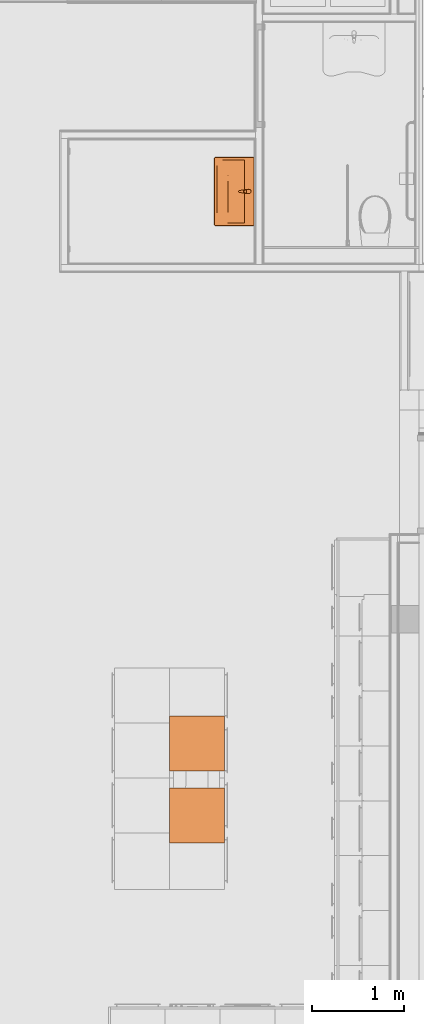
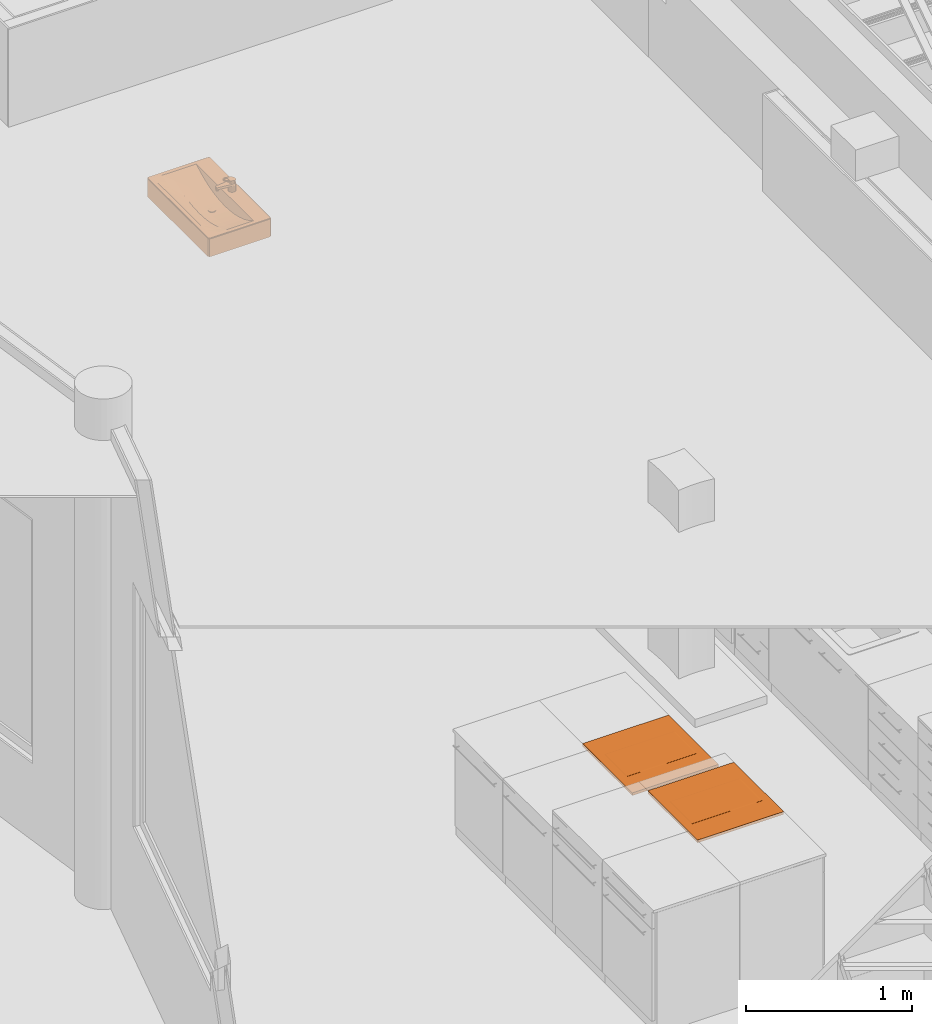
# One storey, part 117 of 167: 3 proxies.
"""IFC2X3 building model written with IfcOpenShell, lengths in millimetres."""

from ifc_helpers import new_model, entity, si_unit, converted_unit, derived_unit, money_unit, direction, frame, origin_with_axes, place, context, subcontext, project, spatial, open_shell, faceted_brep, surface_model, source, transform, mapped, type_object, type_shapes, element, save


model = new_model("IFC2X3")

# Units and contexts
model_context = context("Model", 3, precision=0.01, world=origin_with_axes(), true_north=direction((0.0, 1.0)))
plan_context = context("Plan", 3, precision=0.01, world=origin_with_axes(), true_north=direction((0.0, 1.0)))
body_context = subcontext(model_context, "Body", "Model", "MODEL_VIEW")
ifc_project = project(units=[si_unit("LENGTHUNIT", "METRE", prefix="MILLI"), si_unit("AREAUNIT", "SQUARE_METRE"), si_unit("VOLUMEUNIT", "CUBIC_METRE"), converted_unit("PLANEANGLEUNIT", "DEGREE", entity("IfcPlaneAngleMeasure", 0.0174532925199), si_unit("PLANEANGLEUNIT", "RADIAN"), dimensions=[0, 0, 0, 0, 0, 0, 0]), si_unit("SOLIDANGLEUNIT", "STERADIAN"), money_unit("EUR"), converted_unit("TIMEUNIT", "Year", entity("IfcTimeMeasure", 31556926.0), si_unit("TIMEUNIT", "SECOND"), dimensions=[0, 0, 1, 0, 0, 0, 0]), si_unit("MASSUNIT", "GRAM", prefix="KILO"), si_unit("THERMODYNAMICTEMPERATUREUNIT", "DEGREE_CELSIUS"), si_unit("LUMINOUSINTENSITYUNIT", "LUMEN"), si_unit("ENERGYUNIT", "JOULE", prefix="MEGA"), derived_unit("THERMALCONDUCTANCEUNIT", [(si_unit("POWERUNIT", "WATT"), 1), (si_unit("LENGTHUNIT", "METRE"), -1), (si_unit("THERMODYNAMICTEMPERATUREUNIT", "KELVIN"), -1)]), derived_unit("SPECIFICHEATCAPACITYUNIT", [(si_unit("ENERGYUNIT", "JOULE"), 1), (si_unit("MASSUNIT", "GRAM", prefix="KILO"), -1), (si_unit("THERMODYNAMICTEMPERATUREUNIT", "KELVIN"), -1)]), derived_unit("MASSDENSITYUNIT", [(si_unit("MASSUNIT", "GRAM", prefix="KILO"), 1), (si_unit("VOLUMEUNIT", "CUBIC_METRE"), -1)])], contexts=[model_context, plan_context])

# Site, building, storey
site_placement = place(None, origin_with_axes())
site = spatial("IfcSite", under=ifc_project, at=site_placement, Name="Site", CompositionType="ELEMENT")
building_placement = place(site_placement, origin_with_axes())
building = spatial("IfcBuilding", under=site, at=building_placement, Name="Naam gebouw", CompositionType="ELEMENT")
storey_placement = place(building_placement, origin_with_axes())
storey = spatial("IfcBuildingStorey", under=building, at=storey_placement, Name="Begane grond", CompositionType="ELEMENT", Elevation=0.0)

# Proxies
building_element_proxy_type_1 = type_object("IfcBuildingElementProxyType", Name="Wasbak 24", PredefinedType="NOTDEFINED")
shared_shape_1 = source(origin_with_axes(), body_context, "Body", "SurfaceModel", [
    faceted_brep([(360.0, -440.0, 865.0), (-360.0, -440.0, 865.0), (-367.5, -437.990381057, 865.0), (-372.990381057, -432.5, 865.0), (-375.0, -425.0, 865.0), (-375.0, -15.0, 865.0), (-372.990381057, -7.5, 865.0), (-367.5, -2.00961894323, 865.0), (-360.0, 0.0, 865.0), (360.0, 0.0, 865.0), (367.5, -2.00961894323, 865.0), (372.990381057, -7.5, 865.0), (375.0, -15.0, 865.0), (375.0, -425.0, 865.0), (372.990381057, -432.5, 865.0), (367.5, -437.990381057, 865.0), (-345.0, -410.0, 865.0), (345.0, -410.0, 865.0), (345.0, -110.0, 865.0), (-345.0, -110.0, 865.0), (359.999999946, -440.00000039, 995.0), (-359.999999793, -440.00000039, 995.0), (-367.500000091, -437.990381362, 995.0), (-372.990381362, -432.500000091, 995.0), (-375.00000039, -424.999999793, 995.0), (-375.00000039, -14.9999996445, 995.0), (-372.990381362, -7.50000027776, 995.0), (-367.500000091, -2.00961900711, 995.0), (-359.999999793, 2.02655670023e-08, 995.0), (359.999999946, 2.02655670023e-08, 995.0), (367.500000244, -2.00961900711, 995.0), (372.990381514, -7.50000027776, 995.0), (374.99999961, -14.9999996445, 995.0), (374.99999961, -424.999999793, 995.0), (372.990381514, -432.500000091, 995.0), (367.500000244, -437.990381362, 995.0), (-345.0, -410.0, 999.999999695), (345.0, -410.0, 999.999999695), (345.0, -110.0, 999.999999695), (-345.0, -110.0, 999.999999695), (359.977570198, -439.829629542, 996.294095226), (-359.977570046, -439.829629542, 996.294095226), (-367.411809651, -437.837631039, 996.294095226), (-372.837631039, -432.411809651, 996.294095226), (-374.829629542, -424.977570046, 996.294095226), (-374.829629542, -15.0224293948, 996.294095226), (-372.837631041, -7.58819072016, 996.294095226), (-367.411809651, -2.16236933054, 996.294095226), (-359.977570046, -0.170370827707, 996.294095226), (359.977570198, -0.170370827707, 996.294095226), (367.411809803, -2.16236933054, 996.294095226), (372.837631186, -7.58819071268, 996.294095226), (374.829628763, -15.0224293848, 996.294095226), (374.829628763, -424.977570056, 996.294095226), (372.837631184, -432.411809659, 996.294095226), (367.411809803, -437.837631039, 996.294095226), (-359.34173768, -4.99999712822, 999.999999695), (-364.911811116, -6.49249381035, 999.999999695), (-368.507506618, -10.0881893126, 999.999999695), (-370.000003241, -15.6582618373, 999.999999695), (-370.000003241, -424.34173768, 999.999999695), (-368.507506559, -429.911811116, 999.999999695), (-364.911811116, -433.507506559, 999.999999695), (-359.34173768, -435.000003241, 999.999999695), (359.341737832, -435.000003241, 999.999999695), (364.911811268, -433.507506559, 999.999999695), (368.507506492, -429.911811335, 999.999999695), (370.000002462, -424.341737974, 999.999999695), (370.000002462, -15.6582615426, 999.999999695), (368.50750655, -10.088189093, 999.999999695), (364.911811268, -6.49249381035, 999.999999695), (359.341737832, -4.99999712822, 999.999999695), (359.807199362, -438.535534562, 998.535533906), (-359.807199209, -438.535534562, 998.535533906), (-366.741936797, -436.677377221, 998.535533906), (-371.677377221, -431.741936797, 998.535533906), (-373.535534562, -424.807199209, 998.535533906), (-373.535534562, -15.1928002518, 998.535533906), (-371.677377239, -8.2580635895, 998.535533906), (-366.741936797, -3.32262314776, 998.535533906), (-359.807199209, -1.46446580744, 998.535533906), (359.807199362, -1.46446580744, 998.535533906), (366.741936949, -3.32262314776, 998.535533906), (371.677377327, -8.2580635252, 998.535533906), (373.535533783, -15.1928001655, 998.535533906), (373.535533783, -424.807199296, 998.535533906), (371.677377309, -431.741936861, 998.535533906), (366.741936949, -436.677377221, 998.535533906), (-365.581682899, -5.33224184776, 999.829629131), (-359.512108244, -3.70590421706, 999.829629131), (-369.667758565, -9.41831751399, 999.829629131), (-371.294096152, -15.4878912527, 999.829629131), (-371.294096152, -424.512108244, 999.829629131), (-369.667758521, -430.581682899, 999.829629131), (-365.581682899, -434.667758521, 999.829629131), (-359.512108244, -436.294096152, 999.829629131), (359.512108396, -436.294096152, 999.829629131), (365.581683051, -434.667758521, 999.829629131), (369.667758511, -430.581683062, 999.829629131), (371.294095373, -424.512108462, 999.829629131), (371.294095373, -15.4878910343, 999.829629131), (369.667758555, -9.41831735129, 999.829629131), (365.581683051, -5.33224184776, 999.829629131), (359.512108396, -3.70590421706, 999.829629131)], [[[0, 1, 2, 3, 4, 5, 6, 7, 8, 9, 10, 11, 12, 13, 14, 15], [16, 17, 18, 19]], [[0, 20, 21, 1]], [[1, 21, 22, 2]], [[2, 22, 23, 3]], [[3, 23, 24, 4]], [[4, 24, 25, 5]], [[5, 25, 26, 6]], [[6, 26, 27, 7]], [[7, 27, 28, 8]], [[8, 28, 29, 9]], [[9, 29, 30, 10]], [[10, 30, 31, 11]], [[11, 31, 32, 12]], [[12, 32, 33, 13]], [[13, 33, 34, 14]], [[14, 34, 35, 15]], [[15, 35, 20, 0]], [[36, 37, 17, 16]], [[37, 38, 18, 17]], [[38, 39, 19, 18]], [[39, 36, 16, 19]], [[20, 40, 41, 21]], [[21, 41, 42, 22]], [[22, 42, 43, 23]], [[23, 43, 44, 24]], [[24, 44, 45, 25]], [[25, 45, 46, 26]], [[26, 46, 47, 27]], [[27, 47, 48, 28]], [[28, 48, 49, 29]], [[29, 49, 50, 30]], [[30, 50, 51, 31]], [[31, 51, 52, 32]], [[32, 52, 53, 33]], [[33, 53, 54, 34]], [[34, 54, 55, 35]], [[35, 55, 40, 20]], [[56, 57, 58, 59, 60, 61, 62, 63, 64, 65, 66, 67, 68, 69, 70, 71], [36, 39, 38, 37]], [[40, 72, 73, 41]], [[41, 73, 74, 42]], [[42, 74, 75, 43]], [[43, 75, 76, 44]], [[44, 76, 77, 45]], [[45, 77, 78, 46]], [[46, 78, 79, 47]], [[47, 79, 80, 48]], [[48, 80, 81, 49]], [[49, 81, 82, 50]], [[50, 82, 83, 51]], [[51, 83, 84, 52]], [[52, 84, 85, 53]], [[53, 85, 86, 54]], [[54, 86, 87, 55]], [[55, 87, 72, 40]], [[88, 57, 56, 89]], [[90, 58, 57, 88]], [[91, 59, 58, 90]], [[92, 60, 59, 91]], [[93, 61, 60, 92]], [[94, 62, 61, 93]], [[95, 63, 62, 94]], [[96, 64, 63, 95]], [[97, 65, 64, 96]], [[98, 66, 65, 97]], [[99, 67, 66, 98]], [[100, 68, 67, 99]], [[101, 69, 68, 100]], [[102, 70, 69, 101]], [[103, 71, 70, 102]], [[89, 56, 71, 103]], [[72, 96, 95, 73]], [[73, 95, 94, 74]], [[74, 94, 93, 75]], [[75, 93, 92, 76]], [[76, 92, 91, 77]], [[77, 91, 90, 78]], [[78, 90, 88, 79]], [[79, 88, 89, 80]], [[80, 89, 103, 81]], [[81, 103, 102, 82]], [[82, 102, 101, 83]], [[83, 101, 100, 84]], [[84, 100, 99, 85]], [[85, 99, 98, 86]], [[86, 98, 97, 87]], [[87, 97, 96, 72]]]),
    faceted_brep([(-345.0, -410.0, 865.0), (-345.0, -110.0, 865.0), (345.0, -110.0, 865.0), (345.0, -410.0, 865.0), (12.5, -221.641635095, 865.0), (21.6506350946, -212.491, 865.0), (25.0, -199.991, 865.0), (21.6506350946, -187.491, 865.0), (12.5, -178.340364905, 865.0), (0.0, -174.991, 865.0), (-12.5, -178.340364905, 865.0), (-21.6506350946, -187.491, 865.0), (-25.0, -199.991, 865.0), (-21.6506350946, -212.491, 865.0), (-12.5, -221.641635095, 865.0), (0.0, -224.991, 865.0), (-345.0, -290.0, 1000.0), (-345.0, -230.0, 1000.0), (-345.0, -170.0, 1000.0), (-345.0, -110.0, 1000.0), (-345.0, -410.0, 1000.0), (-345.0, -350.0, 1000.0), (172.5, -110.0, 923.490046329), (230.0, -110.0, 942.392666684), (287.5, -110.0, 967.604424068), (345.0, -110.0, 1000.0), (-287.5, -110.0, 967.604424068), (-230.0, -110.0, 942.392666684), (-172.5, -110.0, 923.490046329), (-115.0, -110.0, 910.33269883), (-57.5, -110.0, 902.567597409), (0.0, -110.0, 900.0), (57.5, -110.0, 902.567597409), (115.0, -110.0, 910.33269883), (345.0, -230.0, 1000.0), (345.0, -290.0, 1000.0), (345.0, -350.0, 1000.0), (345.0, -410.0, 1000.0), (345.0, -170.0, 1000.0), (-172.5, -410.0, 1000.0), (-230.0, -410.0, 1000.0), (-287.5, -410.0, 1000.0), (287.5, -410.0, 1000.0), (230.0, -410.0, 1000.0), (172.5, -410.0, 1000.0), (115.0, -410.0, 1000.0), (57.5, -410.0, 1000.0), (0.0, -410.0, 1000.0), (-57.5, -410.0, 1000.0), (-115.0, -410.0, 1000.0), (12.5, -221.641635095, 900.55817335), (21.6506350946, -212.491, 900.966784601), (25.0, -199.991, 901.116346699), (21.6506350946, -187.491, 900.966784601), (12.5, -178.340364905, 900.55817335), (0.0, -174.991, 900.0), (-12.5, -178.340364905, 900.55817335), (-21.6506350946, -187.491, 900.966784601), (-25.0, -199.991, 901.116346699), (-21.6506350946, -212.491, 900.966784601), (-12.5, -221.641635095, 900.55817335), (0.0, -224.991, 900.0), (-287.5, -230.0, 967.604424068), (-287.5, -170.0, 967.604424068), (-287.5, -350.0, 985.458787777), (-287.5, -290.0, 971.338812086), (230.0, -170.0, 942.392666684), (172.5, -170.0, 923.490046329), (287.5, -170.0, 967.604424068), (-230.0, -170.0, 942.392666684), (-172.5, -170.0, 923.490046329), (-115.0, -170.0, 910.33269883), (-57.5, -170.0, 902.567597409), (0.0, -170.0, 900.0), (57.5, -170.0, 902.567597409), (115.0, -170.0, 910.33269883), (287.5, -290.0, 971.338812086), (287.5, -350.0, 985.458787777), (287.5, -230.0, 967.604424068), (-172.5, -350.0, 964.603096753), (-230.0, -350.0, 973.685305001), (230.0, -350.0, 973.685305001), (172.5, -350.0, 964.603096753), (115.0, -350.0, 958.155102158), (57.5, -350.0, 954.301788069), (0.0, -350.0, 953.019907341), (-57.5, -350.0, 954.301788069), (-115.0, -350.0, 958.155102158), (0.0, -230.0, 900.0), (57.5, -230.0, 902.567597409), (-57.5, -230.0, 902.567597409), (-230.0, -230.0, 942.392666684), (230.0, -230.0, 942.392666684), (172.5, -230.0, 923.490046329), (-172.5, -230.0, 923.490046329), (-115.0, -230.0, 910.33269883), (115.0, -230.0, 910.33269883), (0.0, -290.0, 910.491826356), (-57.5, -290.0, 912.825196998), (-230.0, -290.0, 948.798274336), (172.5, -290.0, 931.776850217), (230.0, -290.0, 948.798274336), (-172.5, -290.0, 931.776850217), (-115.0, -290.0, 919.871958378), (57.5, -290.0, 912.825196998), (115.0, -290.0, 919.871958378)], [[[0, 1, 2, 3], [4, 5, 6, 7, 8, 9, 10, 11, 12, 13, 14, 15]], [[16, 17, 18, 19, 1, 0, 20, 21]], [[22, 23, 24, 25, 2, 1, 19, 26, 27, 28, 29, 30, 31, 32, 33]], [[34, 35, 36, 37, 3, 2, 25, 38]], [[39, 40, 41, 20, 0, 3, 37, 42, 43, 44, 45, 46, 47, 48, 49]], [[50, 51, 5, 4]], [[51, 52, 6, 5]], [[52, 53, 7, 6]], [[53, 54, 8, 7]], [[54, 55, 9, 8]], [[55, 56, 10, 9]], [[56, 57, 11, 10]], [[57, 58, 12, 11]], [[58, 59, 13, 12]], [[59, 60, 14, 13]], [[60, 61, 15, 14]], [[61, 50, 4, 15]], [[16, 62, 17]], [[62, 63, 18, 17]], [[63, 26, 19, 18]], [[20, 64, 21]], [[21, 65, 16]], [[66, 23, 22, 67]], [[68, 24, 23, 66]], [[38, 25, 24, 68]], [[69, 27, 26, 63]], [[70, 28, 27, 69]], [[71, 29, 28, 70]], [[72, 30, 29, 71]], [[73, 31, 30, 72]], [[74, 32, 31, 73]], [[75, 33, 32, 74]], [[67, 22, 33, 75]], [[76, 35, 34]], [[77, 36, 35]], [[42, 37, 36]], [[34, 38, 68, 78]], [[40, 39, 79]], [[41, 40, 80]], [[20, 41, 64]], [[43, 42, 77]], [[44, 43, 81]], [[45, 44, 82]], [[46, 45, 83]], [[47, 46, 84]], [[48, 47, 85]], [[49, 48, 86]], [[39, 49, 87]], [[54, 53, 52, 51, 50, 61, 88, 89, 74, 73, 55]], [[56, 55, 73, 72, 90, 88, 61, 60, 59, 58, 57]], [[16, 65, 62]], [[91, 69, 63, 62]], [[21, 64, 65]], [[92, 66, 67, 93]], [[78, 68, 66, 92]], [[94, 70, 69, 91]], [[95, 71, 70, 94]], [[90, 72, 71, 95]], [[96, 75, 74, 89]], [[93, 67, 75, 96]], [[77, 35, 76]], [[76, 34, 78]], [[42, 36, 77]], [[39, 87, 79]], [[40, 79, 80]], [[41, 80, 64]], [[43, 77, 81]], [[44, 81, 82]], [[45, 82, 83]], [[46, 83, 84]], [[47, 84, 85]], [[48, 85, 86]], [[49, 86, 87]], [[97, 89, 88]], [[98, 88, 90]], [[65, 91, 62]], [[64, 99, 65]], [[100, 92, 93]], [[101, 78, 92]], [[99, 94, 91]], [[102, 95, 94]], [[103, 90, 95]], [[104, 96, 89]], [[105, 93, 96]], [[81, 77, 76]], [[101, 76, 78]], [[79, 87, 103]], [[80, 79, 102]], [[64, 80, 99]], [[82, 81, 101]], [[83, 82, 100]], [[84, 83, 105]], [[85, 84, 104]], [[86, 85, 97]], [[87, 86, 98]], [[97, 104, 89]], [[98, 97, 88]], [[103, 98, 90]], [[65, 99, 91]], [[100, 101, 92]], [[105, 100, 93]], [[99, 102, 94]], [[102, 103, 95]], [[104, 105, 96]], [[81, 76, 101]], [[87, 98, 103]], [[79, 103, 102]], [[80, 102, 99]], [[82, 101, 100]], [[83, 100, 105]], [[84, 105, 104]], [[85, 104, 97]], [[86, 97, 98]]]),
    faceted_brep([(21.6506350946, -212.491, 900.0), (12.5, -221.641635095, 900.0), (0.0, -224.991, 900.0), (-12.5, -221.641635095, 900.0), (-21.6506350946, -212.491, 900.0), (-25.0, -199.991, 900.0), (-21.6506350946, -187.491, 900.0), (-12.5, -178.340364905, 900.0), (0.0, -174.991, 900.0), (12.5, -178.340364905, 900.0), (21.6506350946, -187.491, 900.0), (25.0, -199.991, 900.0), (21.6506350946, -212.491, 905.0), (12.5, -221.641635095, 905.0), (0.0, -224.991, 905.0), (-12.5, -221.641635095, 905.0), (-21.6506350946, -212.491, 905.0), (-25.0, -199.991, 905.0), (-21.6506350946, -187.491, 905.0), (-12.5, -178.340364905, 905.0), (0.0, -174.991, 905.0), (12.5, -178.340364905, 905.0), (21.6506350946, -187.491, 905.0), (25.0, -199.991, 905.0)], [[[0, 1, 2, 3, 4, 5, 6, 7, 8, 9, 10, 11]], [[1, 0, 12, 13]], [[2, 1, 13, 14]], [[3, 2, 14, 15]], [[4, 3, 15, 16]], [[5, 4, 16, 17]], [[6, 5, 17, 18]], [[7, 6, 18, 19]], [[8, 7, 19, 20]], [[9, 8, 20, 21]], [[10, 9, 21, 22]], [[11, 10, 22, 23]], [[0, 11, 23, 12]], [[12, 23, 22, 21, 20, 19, 18, 17, 16, 15, 14, 13]]]),
    surface_model("IfcShellBasedSurfaceModel", [(0.0, -199.991, 907.0), (0.0, -187.369094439, 906.49757372), (-6.31095278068, -189.06010914, 906.49757372), (6.31095278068, -189.06010914, 906.49757372), (0.0, -174.991, 905.0), (-12.5, -178.340364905, 905.0), (-10.9308908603, -193.680047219, 906.49757372), (10.9308908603, -193.680047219, 906.49757372), (12.5, -178.340364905, 905.0), (-21.6506350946, -187.491, 905.0), (-12.6219055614, -199.991, 906.49757372), (12.6219055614, -199.991, 906.49757372), (21.6506350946, -187.491, 905.0), (-25.0, -199.991, 905.0), (-10.9308908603, -206.301952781, 906.49757372), (10.9308908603, -206.301952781, 906.49757372), (25.0, -199.991, 905.0), (-21.6506350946, -212.491, 905.0), (-6.31095278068, -210.92189086, 906.49757372), (6.31095278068, -210.92189086, 906.49757372), (21.6506350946, -212.491, 905.0), (-12.5, -221.641635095, 905.0), (0.0, -212.612905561, 906.49757372), (12.5, -221.641635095, 905.0), (0.0, -224.991, 905.0)], [open_shell([[[0, 1, 2]], [[0, 3, 1]], [[2, 1, 4, 5]], [[0, 2, 6]], [[0, 7, 3]], [[1, 3, 8, 4]], [[6, 2, 5, 9]], [[0, 6, 10]], [[0, 11, 7]], [[3, 7, 12, 8]], [[10, 6, 9, 13]], [[0, 10, 14]], [[0, 15, 11]], [[7, 11, 16, 12]], [[14, 10, 13, 17]], [[0, 14, 18]], [[0, 19, 15]], [[11, 15, 20, 16]], [[18, 14, 17, 21]], [[0, 18, 22]], [[0, 22, 19]], [[15, 19, 23, 20]], [[22, 18, 21, 24]], [[19, 22, 24, 23]]])]),
    faceted_brep([(12.5, -38.3493649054, 1000.0), (0.0, -35.0, 1000.0), (0.0, -38.7980769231, 1075.96153846), (10.5873227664, -41.6622190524, 1076.50708934), (21.6506350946, -47.5, 1000.0), (25.0, -60.0, 1000.0), (21.6506350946, -72.5, 1000.0), (12.5, -81.6506350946, 1000.0), (0.0, -85.0, 1000.0), (-12.5, -81.6506350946, 1000.0), (-21.6506350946, -72.5, 1000.0), (-25.0, -60.0, 1000.0), (-21.6506350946, -47.5, 1000.0), (-12.5, -38.3493649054, 1000.0), (-10.5873227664, -41.6622190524, 1076.50708934), (-18.2735503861, -49.4497607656, 1077.99043062), (-21.0, -60.0, 1080.0), (-18.1003413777, -70.4502369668, 1081.99052133), (-10.4141059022, -78.037760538, 1083.43576391), (0.0, -80.8018867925, 1083.96226415), (10.4141059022, -78.037760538, 1083.43576391), (18.1003413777, -70.4502369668, 1081.99052133), (21.0, -60.0, 1080.0), (18.2735503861, -49.4497607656, 1077.99043062)], [[[0, 1, 2, 3]], [[0, 4, 5, 6, 7, 8, 9, 10, 11, 12, 13, 1]], [[1, 13, 14, 2]], [[3, 2, 14, 15, 16, 17, 18, 19, 20, 21, 22, 23]], [[4, 0, 3, 23]], [[5, 4, 23, 22]], [[6, 5, 22, 21]], [[7, 6, 21, 20]], [[8, 7, 20, 19]], [[9, 8, 19, 18]], [[10, 9, 18, 17]], [[11, 10, 17, 16]], [[12, 11, 16, 15]], [[13, 12, 15, 14]]]),
    faceted_brep([(9.0, -163.0, 1035.0), (7.79422863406, -158.5, 1035.0), (7.79422863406, -158.5, 1045.0), (9.0, -163.0, 1045.0), (7.79422863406, -167.5, 1035.0), (4.5, -170.794228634, 1035.0), (0.0, -172.0, 1035.0), (-4.5, -170.794228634, 1035.0), (-7.79422863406, -167.5, 1035.0), (-9.0, -163.0, 1035.0), (-7.79422863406, -158.5, 1035.0), (-4.5, -155.205771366, 1035.0), (0.0, -154.0, 1035.0), (4.5, -155.205771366, 1035.0), (4.5, -155.205771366, 1045.0), (0.0, -154.0, 1045.0), (-4.5, -155.205771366, 1045.0), (-7.79422863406, -158.5, 1045.0), (-9.0, -163.0, 1045.0), (-7.79422863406, -167.5, 1045.0), (-4.5, -170.794228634, 1045.0), (0.0, -172.0, 1045.0), (4.5, -170.794228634, 1045.0), (7.79422863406, -167.5, 1045.0)], [[[0, 1, 2, 3]], [[0, 4, 5, 6, 7, 8, 9, 10, 11, 12, 13, 1]], [[1, 13, 14, 2]], [[3, 2, 14, 15, 16, 17, 18, 19, 20, 21, 22, 23]], [[4, 0, 3, 23]], [[5, 4, 23, 22]], [[6, 5, 22, 21]], [[7, 6, 21, 20]], [[8, 7, 20, 19]], [[9, 8, 19, 18]], [[10, 9, 18, 17]], [[11, 10, 17, 16]], [[12, 11, 16, 15]], [[13, 12, 15, 14]]]),
    faceted_brep([(-12.8717176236, -39.7436961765, 1060.0), (-21.727805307, -49.8067946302, 1060.0), (-23.8054, -63.0499, 1060.0), (-10.911990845, -164.388371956, 1060.0), (-9.02887546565, -169.283194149, 1060.0), (-5.09332449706, -172.749726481, 1060.0), (3.62679860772e-05, -173.99996004, 1060.0), (5.09338878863, -172.749692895, 1060.0), (9.02891689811, -169.283134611, 1060.0), (10.912, -164.3883, 1060.0), (23.8053997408, -63.0499020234, 1060.0), (21.7278061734, -49.806796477, 1060.0), (12.8717193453, -39.7436972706, 1060.0), (1.01998896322e-06, -36.000021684, 1060.0), (11.0, -40.9474411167, 1060.0), (19.0525588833, -49.0, 1060.0), (22.0, -60.0, 1060.0), (19.0525588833, -71.0, 1060.0), (11.0, -79.0525588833, 1060.0), (0.0, -82.0, 1060.0), (-11.0, -79.0525588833, 1060.0), (-19.0525588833, -71.0, 1060.0), (-22.0, -60.0, 1060.0), (-19.0525588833, -49.0, 1060.0), (-11.0, -40.9474411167, 1060.0), (0.0, -38.0, 1060.0), (-21.727805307, -49.8067946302, 1045.0), (-12.8717176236, -39.7436961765, 1045.0), (-23.8054, -63.0499, 1045.0), (-10.911990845, -164.388371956, 1045.0), (-9.02887546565, -169.283194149, 1045.0), (-5.09332449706, -172.749726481, 1045.0), (3.62679860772e-05, -173.99996004, 1045.0), (5.09338878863, -172.749692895, 1045.0), (9.02891689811, -169.283134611, 1045.0), (10.912, -164.3883, 1045.0), (23.8053997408, -63.0499020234, 1045.0), (21.7278061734, -49.806796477, 1045.0), (12.8717193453, -39.7436972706, 1045.0), (1.01998896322e-06, -36.000021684, 1045.0), (11.375, -40.2979220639, 1045.0), (19.7020779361, -48.625, 1045.0), (22.75, -60.0, 1045.0), (19.7020779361, -71.375, 1045.0), (11.375, -79.7020779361, 1045.0), (0.0, -82.75, 1045.0), (-11.375, -79.7020779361, 1045.0), (-19.7020779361, -71.375, 1045.0), (-22.75, -60.0, 1045.0), (-19.7020779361, -48.625, 1045.0), (-11.375, -40.2979220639, 1045.0), (0.0, -37.25, 1045.0)], [[[0, 1, 2, 3, 4, 5, 6, 7, 8, 9, 10, 11, 12, 13], [14, 15, 16, 17, 18, 19, 20, 21, 22, 23, 24, 25]], [[26, 1, 0, 27]], [[28, 2, 1, 26]], [[29, 3, 2, 28]], [[30, 4, 3, 29]], [[31, 5, 4, 30]], [[32, 6, 5, 31]], [[33, 7, 6, 32]], [[34, 8, 7, 33]], [[35, 9, 8, 34]], [[36, 10, 9, 35]], [[37, 11, 10, 36]], [[38, 12, 11, 37]], [[39, 13, 12, 38]], [[27, 0, 13, 39]], [[40, 41, 15, 14]], [[41, 42, 16, 15]], [[42, 43, 17, 16]], [[43, 44, 18, 17]], [[44, 45, 19, 18]], [[20, 19, 45, 46]], [[21, 20, 46, 47]], [[22, 21, 47, 48]], [[23, 22, 48, 49]], [[24, 23, 49, 50]], [[50, 51, 25, 24]], [[51, 40, 14, 25]], [[32, 31, 30, 29, 28, 26, 27, 39, 38, 37, 36, 35, 34, 33], [44, 43, 42, 41, 40, 51, 50, 49, 48, 47, 46, 45]]]),
    faceted_brep([(23.893, -61.6925693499, 1080.32239416), (21.2964214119, -49.225281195, 1077.94767261), (21.2964214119, -48.4768327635, 1081.87702687), (23.893, -60.9441209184, 1084.25174843), (20.9459364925, -101.836702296, 1087.96889568), (17.6631391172, -111.514366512, 1089.81226029), (10.0614352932, -118.463746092, 1091.13595164), (-0.000442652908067, -120.98561192, 1091.61630703), (-10.0622123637, -118.463329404, 1091.13587227), (-17.6636179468, -111.513635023, 1089.81212096), (-20.946, -101.835834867, 1087.96873045), (-23.893020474, -61.6922904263, 1080.32234103), (-21.2962910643, -49.2250325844, 1077.94762525), (-12.4716815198, -39.9088025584, 1076.17310525), (0.000142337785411, -36.4680354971, 1075.51772105), (12.4719245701, -39.9089481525, 1076.17313298), (14.0, -85.540802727, 1084.86491481), (-14.0, -85.540802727, 1084.86491481), (-14.0, -100.356432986, 1087.68693962), (-12.124355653, -107.232802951, 1088.99672437), (-7.0, -112.266655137, 1089.95555336), (0.0, -114.109172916, 1090.30650913), (7.0, -112.266655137, 1089.95555336), (12.124355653, -107.232802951, 1088.99672437), (14.0, -100.356432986, 1087.68693962), (12.4719245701, -39.1604997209, 1080.10248725), (0.000142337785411, -35.7195870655, 1079.44707531), (-12.4716815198, -39.1603541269, 1080.10245951), (-21.2962910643, -48.4765841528, 1081.87697952), (-23.893020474, -60.9438419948, 1084.2516953), (-20.946, -101.087386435, 1091.89808472), (-17.6636179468, -110.765186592, 1093.74147522), (-10.0622123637, -117.714880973, 1095.06522653), (-0.000442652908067, -120.237163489, 1095.5456613), (10.0614352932, -117.71529766, 1095.0653059), (17.6631391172, -110.76591808, 1093.74161455), (20.9459364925, -101.088253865, 1091.89824994), (14.0, -84.7923542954, 1088.79426907), (14.0, -99.6079845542, 1091.61629388), (12.124355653, -106.484354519, 1092.92607864), (7.0, -111.518206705, 1093.88490763), (0.0, -113.360724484, 1094.23586339), (-7.0, -111.518206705, 1093.88490763), (-12.124355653, -106.484354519, 1092.92607864), (-14.0, -99.6079845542, 1091.61629388), (-14.0, -84.7923542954, 1088.79426907)], [[[0, 1, 2, 3]], [[0, 4, 5, 6, 7, 8, 9, 10, 11, 12, 13, 14, 15, 1], [16, 17, 18, 19, 20, 21, 22, 23, 24]], [[1, 15, 25, 2]], [[3, 2, 25, 26, 27, 28, 29, 30, 31, 32, 33, 34, 35, 36], [37, 38, 39, 40, 41, 42, 43, 44, 45]], [[4, 0, 3, 36]], [[5, 4, 36, 35]], [[6, 5, 35, 34]], [[7, 6, 34, 33]], [[8, 7, 33, 32]], [[9, 8, 32, 31]], [[10, 9, 31, 30]], [[11, 10, 30, 29]], [[12, 11, 29, 28]], [[13, 12, 28, 27]], [[14, 13, 27, 26]], [[15, 14, 26, 25]], [[17, 16, 37, 45]], [[18, 17, 45, 44]], [[19, 18, 44, 43]], [[20, 19, 43, 42]], [[21, 20, 42, 41]], [[22, 21, 41, 40]], [[23, 22, 40, 39]], [[24, 23, 39, 38]], [[16, 24, 38, 37]]]),
])
type_shapes(building_element_proxy_type_1, [shared_shape_1])
proxy_placement = place(storey_placement, frame((27000.0000132, 33469.3529392, 90.0), z_axis=(0.0, 0.0, 1.0), x_axis=(0.0, -1.0, 0.0)))
element("IfcBuildingElementProxy", 1, at=proxy_placement, inside=storey, type_object=building_element_proxy_type_1, Name="__Object-x", context=body_context, shape_type="MappedRepresentation", body=[
    mapped(shared_shape_1, transform((0.0, 0.0, 0.0))),
])
building_element_proxy_type_2 = type_object("IfcBuildingElementProxyType", Name="Kookplaat inbouw 24", PredefinedType="NOTDEFINED")
shared_shape_2 = source(origin_with_axes(), body_context, "Body", "Brep", [
    faceted_brep([(0.0, 0.0, 900.0), (0.0, 0.0, 920.0), (-600.0, 0.0, 920.0), (-600.0, 0.0, 900.0), (0.0, 600.0, 900.0), (0.0, 600.0, 920.0), (-600.0, 600.0, 920.0), (-600.0, 600.0, 900.0)], [[[0, 1, 2, 3]], [[4, 5, 1, 0]], [[1, 5, 6, 2]], [[3, 2, 6, 7]], [[0, 3, 7, 4]], [[7, 6, 5, 4]]]),
    faceted_brep([(-165.0, 55.0, 920.0), (-434.999997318, 55.0, 920.0), (-434.999997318, 545.0, 920.0), (-165.0, 545.0, 920.0), (-164.99999961, 54.9999996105, 920.8), (-434.999997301, 54.9999996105, 920.8), (-434.999997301, 544.999999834, 920.8), (-164.99999961, 544.999999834, 920.8), (-171.805536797, 61.8055367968, 921.999999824), (-428.194460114, 61.8055367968, 921.999999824), (-428.194460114, 538.194462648, 921.999999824), (-171.805536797, 538.194462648, 921.999999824)], [[[0, 1, 2, 3]], [[0, 4, 5, 1]], [[1, 5, 6, 2]], [[2, 6, 7, 3]], [[3, 7, 4, 0]], [[4, 8, 9, 5]], [[5, 9, 10, 6]], [[6, 10, 11, 7]], [[7, 11, 8, 4]], [[10, 9, 8, 11]]]),
])
type_shapes(building_element_proxy_type_2, [shared_shape_2])
for number, where, z_axis, x_axis in (
    (2, (26675.0, 27744.1974168, -130.0), (0.0, 0.0, 1.0), (0.0, 1.0, 0.0)),
    (3, (26675.0, 26956.9897141, 0.0), (0.0, 0.0, 1.0), (0.0, 1.0, 0.0)),
):
    element("IfcBuildingElementProxy", number, at=place(storey_placement, frame(where, z_axis=z_axis, x_axis=x_axis)), inside=storey, type_object=building_element_proxy_type_2, Name="__object-x", context=body_context, shape_type="MappedRepresentation", body=[
        mapped(shared_shape_2, transform((0.0, 0.0, 0.0))),
    ])

save(model, "model.ifc")
